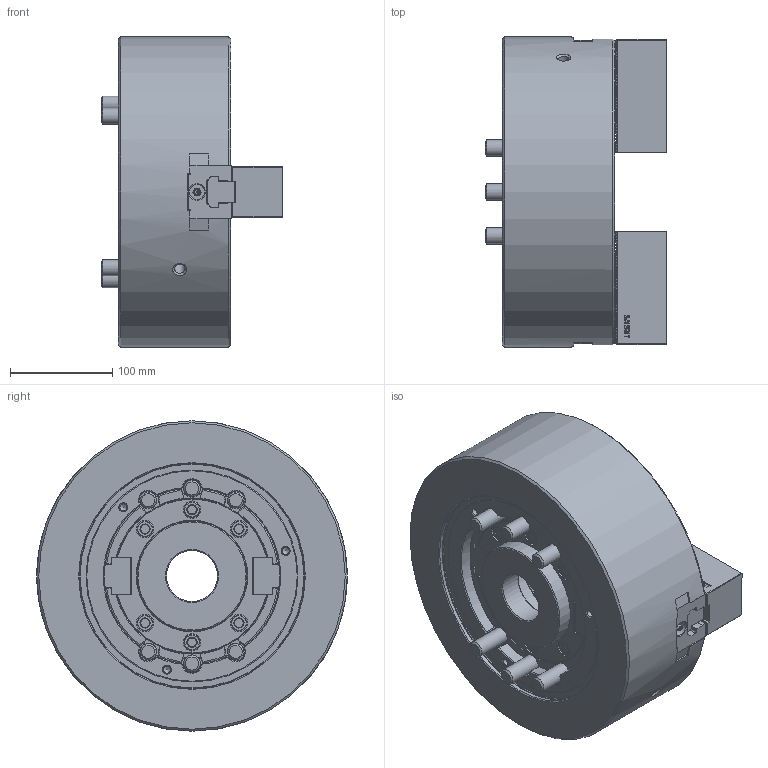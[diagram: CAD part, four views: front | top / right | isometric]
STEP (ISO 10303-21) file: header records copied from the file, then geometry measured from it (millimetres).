
FILE_DESCRIPTION (( 'STEP AP214' ), '1' );
FILE_NAME ('DT1_BT212_OUTSIDE_VIEW_HCL.STEP', '2024-05-09T02:39:30', ( '' ), ( '' ), 'SwSTEP 2.0', 'SolidWorks 2022', '' );
FILE_SCHEMA (( 'AUTOMOTIVE_DESIGN' ));
Length unit declared in the file: millimetre
Products named in the file (9): DT1_BT212_COVER^DT1-BT212_ﾃﾞﾌｫﾙﾄ; DT1_BT212_TNUT^DT1-BT212_ﾃﾞﾌｫﾙﾄ; DT1_BT212_OUTSIDE_VIEW_HCL; DT1_BT212_M16x40^DT1-BT212_ﾃﾞﾌｫﾙﾄ; DT1_BT212_M6x10^DT1-BT212_ﾃﾞﾌｫﾙﾄ; DT1_BT212_DRAWNUT^DT1-BT212_ﾃﾞﾌｫﾙﾄ; DT1_BT212_BASE^DT1-BT212_ﾃﾞﾌｫﾙﾄ; DT1_BT212_SOFTJAW^DT1-BT212_ﾃﾞﾌｫﾙﾄ; DT1_BT212_M16x110^DT1-BT212_ﾃﾞﾌｫﾙﾄ
Assembly tree (21 placements, depth 2):
  DT1_BT212_OUTSIDE_VIEW_HCL
    DT1_BT212_SOFTJAW^DT1-BT212_ﾃﾞﾌｫﾙﾄ  x2
    DT1_BT212_TNUT^DT1-BT212_ﾃﾞﾌｫﾙﾄ  x2
    DT1_BT212_DRAWNUT^DT1-BT212_ﾃﾞﾌｫﾙﾄ
    DT1_BT212_COVER^DT1-BT212_ﾃﾞﾌｫﾙﾄ
    DT1_BT212_BASE^DT1-BT212_ﾃﾞﾌｫﾙﾄ
    DT1_BT212_M6x10^DT1-BT212_ﾃﾞﾌｫﾙﾄ  x4
    DT1_BT212_M16x40^DT1-BT212_ﾃﾞﾌｫﾙﾄ  x4
    DT1_BT212_M16x110^DT1-BT212_ﾃﾞﾌｫﾙﾄ  x6
Bounding box: 178 x 304 x 304 mm (x, y, z)
Volume: 7435277.6 mm3; surface area: 600622.2 mm2
Topology: 21 solids, 21 shells, 3939 faces, 11191 edges, 7384 vertices
Faces by surface type: plane 2609, cylinder 798, cone 272, bspline 213, torus 45, sphere 2
Full cylindrical faces by diameter (mm): 2 x2, 5 x4, 6 x4, 6.6 x4, 6.8 x3, 10.2 x2, 10.5 x4, 11 x4, 14 x4, 15 x2, 16 x10, 17 x16, 24.33 x10, 25 x10, 50 x1, 91 x2, 96 x2, 101 x1, 108 x2, 220 x1, 220.8 x1, 304 x1
Entity records: 104837 total; most frequent: CARTESIAN_POINT 31073, ORIENTED_EDGE 16730, DIRECTION 13020, EDGE_CURVE 8365, VECTOR 5878, LINE 5878, VERTEX_POINT 5601, AXIS2_PLACEMENT_3D 3571
